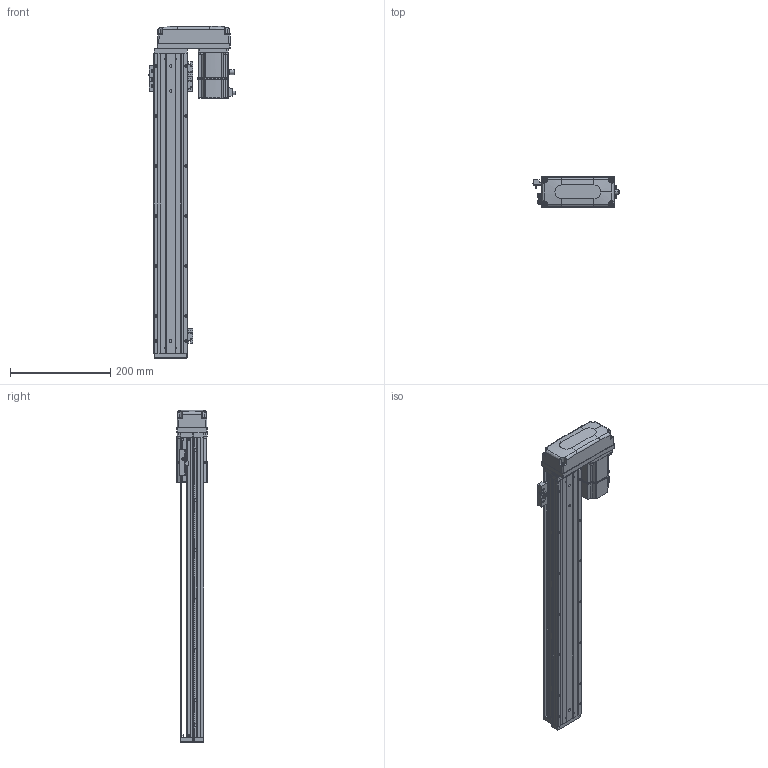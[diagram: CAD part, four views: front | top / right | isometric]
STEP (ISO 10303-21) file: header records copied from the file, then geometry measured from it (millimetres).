
FILE_DESCRIPTION (( 'STEP AP203' ), '1' );
FILE_NAME ('KTHA60-500-BL-M20-C4L.step', '2022-12-16T01:32:40', ( '微软用户' ), ( '微软中国' ), 'SwSTEP 2.0', 'SolidWorks 2020', '' );
FILE_SCHEMA (( 'CONFIG_CONTROL_DESIGN' ));
Length unit declared in the file: millimetre
Products named in the file (17): KTHA60-005; GBT77-2000M3-3; KTHA60-500-BL-M20-C4L; GB¨uT 70.2-M3¡Á5_M3¡Á6; GBT 70.1-M3℅6; GBT 70.3-M3℅6; CTHA60-016; EE_SX911P_R; KTHA60-002; CTHA60-017; BTH80-026; KTHA60-001_600; CTHA60-021; CTHA60-006-2_CTHA60-006-2; KTHA60-004; GBT 70.1-M4×16; _X2_4E0983F1_X0_200W_1
Assembly tree (51 placements, depth 2):
  KTHA60-500-BL-M20-C4L
    KTHA60-001_600
    KTHA60-004
    KTHA60-005
    GB¨uT 70.2-M3¡Á5_M3¡Á6  x6
    GBT 70.3-M3℅6  x4
    EE_SX911P_R  x3
    CTHA60-017  x3
    CTHA60-021  x2
    GBT 70.1-M4×16  x8
    GBT77-2000M3-3  x6
    GBT 70.1-M3℅6  x10
    CTHA60-016  x2
    KTHA60-002
    BTH80-026
    CTHA60-006-2_CTHA60-006-2
    _X2_4E0983F1_X0_200W_1
Bounding box: 172.1 x 62.42 x 664 mm (x, y, z)
Volume: 1476674 mm3; surface area: 390791 mm2
Topology: 54 solids, 54 shells, 2448 faces, 5829 edges, 3586 vertices
Faces by surface type: plane 1297, cylinder 650, cone 284, bspline 109, torus 92, sphere 16
Entity records: 45532 total; most frequent: CARTESIAN_POINT 10594, ORIENTED_EDGE 6706, DIRECTION 6698, EDGE_CURVE 3353, AXIS2_PLACEMENT_3D 2309, VERTEX_POINT 2095, LINE 2080, VECTOR 2080
